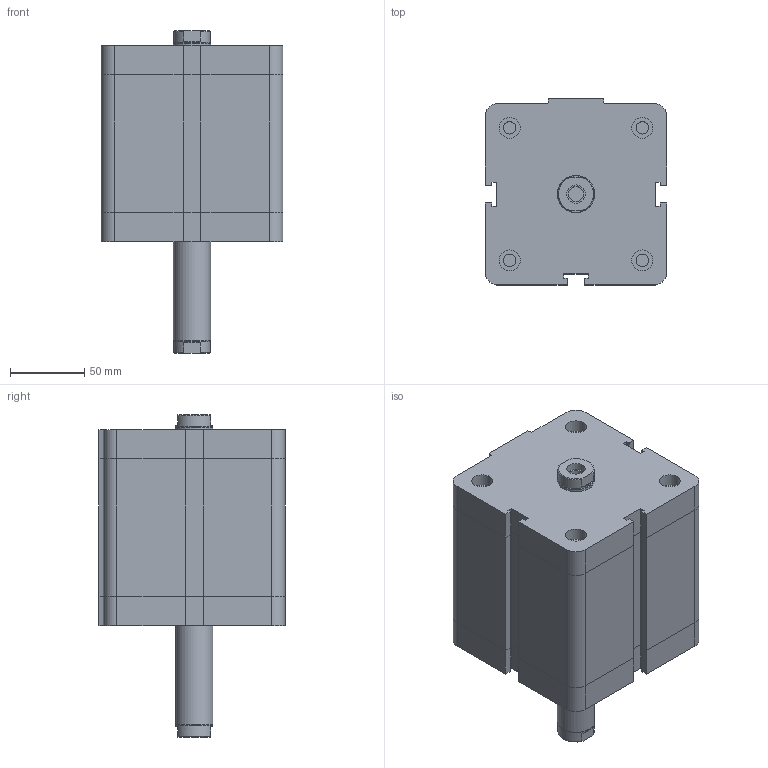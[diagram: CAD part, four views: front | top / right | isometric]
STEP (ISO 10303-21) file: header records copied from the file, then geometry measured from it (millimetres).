
FILE_DESCRIPTION((''),'2;1');
FILE_NAME('I:\Area Tecnica\Disegni\VARIE-3D\Componenti\EUROPE\15##_###_####_03_#\1561_100_0065_03_1.iam.stp','2009-04-20T14:34:40',(''),(''),'Autodesk Inventor 2009','Autodesk Inventor 2009','');
FILE_SCHEMA(('AUTOMOTIVE_DESIGN { 1 0 10303 214 1 1 1 1 }'));
Length unit declared in the file: millimetre
Products named in the file (3): 1561_100_0065_03_1; 1561_100_0065_03_1_C; 1561_100_0065_03_1_S
Assembly tree (2 placements, depth 2):
  1561_100_0065_03_1
    1561_100_0065_03_1_C
    1561_100_0065_03_1_S
Bounding box: 122 x 125 x 216.5 mm (x, y, z)
Volume: 1940687.7 mm3; surface area: 136716.1 mm2
Topology: 2 solids, 2 shells, 174 faces, 379 edges, 231 vertices
Faces by surface type: plane 114, bspline 29, cylinder 25, cone 6
Full cylindrical faces by diameter (mm): 8.376 x4, 10.106 x1, 12.3 x1, 14 x4, 24.5 x2, 25 x1
Entity records: 4758 total; most frequent: CARTESIAN_POINT 1020, DIRECTION 708, ORIENTED_EDGE 676, EDGE_CURVE 338, VECTOR 252, LINE 252, AXIS2_PLACEMENT_3D 228, EDGE_LOOP 226
